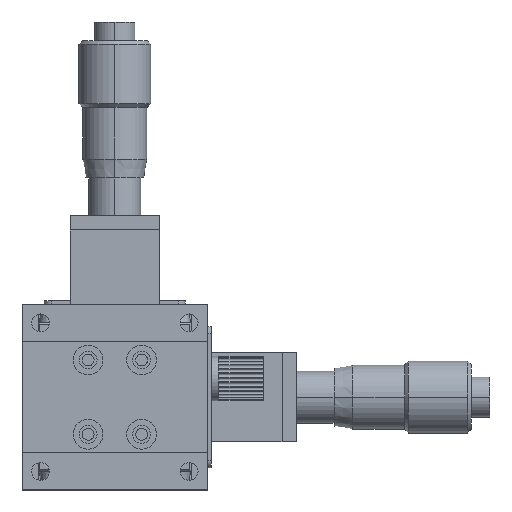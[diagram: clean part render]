
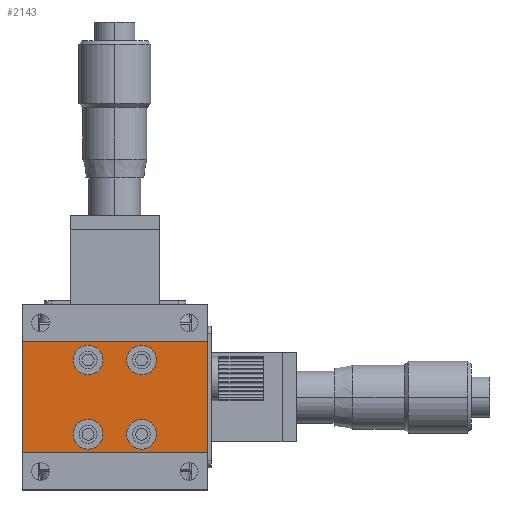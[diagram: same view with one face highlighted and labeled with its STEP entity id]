
A CAD part, front view. The second image highlights one B-rep face of the part: STEP entity #2143.
In plain terms, the highlighted planar face has unit normal (0, -1, 0).
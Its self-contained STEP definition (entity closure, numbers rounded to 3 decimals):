
#23 = CARTESIAN_POINT ( 'NONE',  ( -3.6, 0.2, 5. ) ) ;
#297 = ORIENTED_EDGE ( 'NONE', *, *, #12014, .F. ) ;
#895 = DIRECTION ( 'NONE',  ( -1., 0., 0. ) ) ;
#1050 = CARTESIAN_POINT ( 'NONE',  ( -3.6, 0.2, 5. ) ) ;
#1134 = ORIENTED_EDGE ( 'NONE', *, *, #10113, .F. ) ;
#1317 = VERTEX_POINT ( 'NONE', #13072 ) ;
#1494 = DIRECTION ( 'NONE',  ( 0., 0., -1. ) ) ;
#1701 = ORIENTED_EDGE ( 'NONE', *, *, #3311, .F. ) ;
#1770 = ORIENTED_EDGE ( 'NONE', *, *, #10217, .F. ) ;
#2080 = ORIENTED_EDGE ( 'NONE', *, *, #6168, .T. ) ;
#2143 = ADVANCED_FACE ( 'NONE', ( #3008, #2791, #5303, #4877, #9666 ), #8812, .T. ) ;
#2146 = AXIS2_PLACEMENT_3D ( 'NONE', #11969, #8082, #1494 ) ;
#2193 = CARTESIAN_POINT ( 'NONE',  ( 0., 0.2, 0. ) ) ;
#2210 = CARTESIAN_POINT ( 'NONE',  ( 3.6, 0.2, 5. ) ) ;
#2267 = DIRECTION ( 'NONE',  ( 0., 0., -1. ) ) ;
#2553 = AXIS2_PLACEMENT_3D ( 'NONE', #11245, #15064, #11075 ) ;
#2573 = EDGE_LOOP ( 'NONE', ( #7504, #1134 ) ) ;
#2791 = FACE_BOUND ( 'NONE', #8782, .T. ) ;
#2861 = EDGE_LOOP ( 'NONE', ( #297, #5776 ) ) ;
#2947 = VERTEX_POINT ( 'NONE', #12174 ) ;
#3008 = FACE_BOUND ( 'NONE', #2573, .T. ) ;
#3193 = VERTEX_POINT ( 'NONE', #11358 ) ;
#3311 = EDGE_CURVE ( 'NONE', #17086, #4553, #10611, .T. ) ;
#3483 = VECTOR ( 'NONE', #895, 1000. ) ;
#3622 = LINE ( 'NONE', #5313, #5669 ) ;
#3709 = DIRECTION ( 'NONE',  ( 0., 0., -1. ) ) ;
#3828 = ORIENTED_EDGE ( 'NONE', *, *, #14562, .F. ) ;
#4104 = ORIENTED_EDGE ( 'NONE', *, *, #5173, .F. ) ;
#4553 = VERTEX_POINT ( 'NONE', #6888 ) ;
#4637 = ORIENTED_EDGE ( 'NONE', *, *, #7506, .T. ) ;
#4877 = FACE_BOUND ( 'NONE', #2861, .T. ) ;
#4965 = VERTEX_POINT ( 'NONE', #15394 ) ;
#5136 = VERTEX_POINT ( 'NONE', #6410 ) ;
#5173 = EDGE_CURVE ( 'NONE', #4553, #17086, #6615, .T. ) ;
#5303 = FACE_BOUND ( 'NONE', #9607, .T. ) ;
#5313 = CARTESIAN_POINT ( 'NONE',  ( 12.5, 0.2, 7.5 ) ) ;
#5459 = CIRCLE ( 'NONE', #5501, 2. ) ;
#5501 = AXIS2_PLACEMENT_3D ( 'NONE', #1050, #10307, #3709 ) ;
#5529 = VERTEX_POINT ( 'NONE', #14983 ) ;
#5669 = VECTOR ( 'NONE', #6461, 1000. ) ;
#5745 = DIRECTION ( 'NONE',  ( 1., 0., 0. ) ) ;
#5746 = EDGE_CURVE ( 'NONE', #15667, #13556, #6990, .T. ) ;
#5776 = ORIENTED_EDGE ( 'NONE', *, *, #14142, .F. ) ;
#5779 = CARTESIAN_POINT ( 'NONE',  ( -3.6, 0.2, -5. ) ) ;
#6164 = CARTESIAN_POINT ( 'NONE',  ( 3.6, 0.2, -3. ) ) ;
#6168 = EDGE_CURVE ( 'NONE', #5529, #1317, #13462, .T. ) ;
#6194 = CIRCLE ( 'NONE', #2553, 2. ) ;
#6289 = CARTESIAN_POINT ( 'NONE',  ( 3.6, 0.2, -5. ) ) ;
#6410 = CARTESIAN_POINT ( 'NONE',  ( -3.6, 0.2, 3. ) ) ;
#6461 = DIRECTION ( 'NONE',  ( 0., 0., 1. ) ) ;
#6538 = CIRCLE ( 'NONE', #9314, 2. ) ;
#6615 = CIRCLE ( 'NONE', #11198, 2. ) ;
#6888 = CARTESIAN_POINT ( 'NONE',  ( 3.6, 0.2, -7. ) ) ;
#6989 = AXIS2_PLACEMENT_3D ( 'NONE', #23, #14960, #9303 ) ;
#6990 = LINE ( 'NONE', #12665, #3483 ) ;
#7276 = LINE ( 'NONE', #15575, #11426 ) ;
#7504 = ORIENTED_EDGE ( 'NONE', *, *, #13803, .F. ) ;
#7506 = EDGE_CURVE ( 'NONE', #1317, #15667, #3622, .T. ) ;
#7736 = DIRECTION ( 'NONE',  ( 0., -1., 0. ) ) ;
#8082 = DIRECTION ( 'NONE',  ( 0., -1., 0. ) ) ;
#8270 = AXIS2_PLACEMENT_3D ( 'NONE', #9116, #7736, #9049 ) ;
#8362 = AXIS2_PLACEMENT_3D ( 'NONE', #2193, #12876, #8940 ) ;
#8459 = DIRECTION ( 'NONE',  ( 0., -1., 0. ) ) ;
#8507 = CIRCLE ( 'NONE', #6989, 2. ) ;
#8782 = EDGE_LOOP ( 'NONE', ( #3828, #1770 ) ) ;
#8812 = PLANE ( 'NONE',  #8362 ) ;
#8940 = DIRECTION ( 'NONE',  ( 1., 0., 0. ) ) ;
#9049 = DIRECTION ( 'NONE',  ( 0., 0., -1. ) ) ;
#9116 = CARTESIAN_POINT ( 'NONE',  ( 3.6, 0.2, -5. ) ) ;
#9303 = DIRECTION ( 'NONE',  ( 0., 0., -1. ) ) ;
#9314 = AXIS2_PLACEMENT_3D ( 'NONE', #5779, #8459, #9786 ) ;
#9580 = EDGE_CURVE ( 'NONE', #13556, #5529, #7276, .T. ) ;
#9607 = EDGE_LOOP ( 'NONE', ( #4104, #1701 ) ) ;
#9666 = FACE_OUTER_BOUND ( 'NONE', #13752, .T. ) ;
#9786 = DIRECTION ( 'NONE',  ( 0., 0., -1. ) ) ;
#10063 = AXIS2_PLACEMENT_3D ( 'NONE', #2210, #11435, #2267 ) ;
#10113 = EDGE_CURVE ( 'NONE', #15580, #5136, #8507, .T. ) ;
#10121 = ORIENTED_EDGE ( 'NONE', *, *, #5746, .T. ) ;
#10217 = EDGE_CURVE ( 'NONE', #2947, #4965, #6194, .T. ) ;
#10307 = DIRECTION ( 'NONE',  ( 0., -1., 0. ) ) ;
#10611 = CIRCLE ( 'NONE', #8270, 2. ) ;
#10989 = VERTEX_POINT ( 'NONE', #14792 ) ;
#11034 = CARTESIAN_POINT ( 'NONE',  ( 12.5, 0.2, 7.5 ) ) ;
#11075 = DIRECTION ( 'NONE',  ( 0., 0., -1. ) ) ;
#11198 = AXIS2_PLACEMENT_3D ( 'NONE', #6289, #15516, #16758 ) ;
#11245 = CARTESIAN_POINT ( 'NONE',  ( 3.6, 0.2, 5. ) ) ;
#11358 = CARTESIAN_POINT ( 'NONE',  ( -3.6, 0.2, -3. ) ) ;
#11426 = VECTOR ( 'NONE', #11699, 1000. ) ;
#11435 = DIRECTION ( 'NONE',  ( 0., -1., 0. ) ) ;
#11574 = CIRCLE ( 'NONE', #2146, 2. ) ;
#11699 = DIRECTION ( 'NONE',  ( 0., 0., -1. ) ) ;
#11969 = CARTESIAN_POINT ( 'NONE',  ( -3.6, 0.2, -5. ) ) ;
#11975 = CIRCLE ( 'NONE', #10063, 2. ) ;
#12014 = EDGE_CURVE ( 'NONE', #10989, #3193, #11574, .T. ) ;
#12174 = CARTESIAN_POINT ( 'NONE',  ( 3.6, 0.2, 7. ) ) ;
#12665 = CARTESIAN_POINT ( 'NONE',  ( -12.5, 0.2, 7.5 ) ) ;
#12876 = DIRECTION ( 'NONE',  ( 0., -1., 0. ) ) ;
#13072 = CARTESIAN_POINT ( 'NONE',  ( 12.5, 0.2, -7.5 ) ) ;
#13306 = CARTESIAN_POINT ( 'NONE',  ( -3.6, 0.2, 7. ) ) ;
#13462 = LINE ( 'NONE', #13698, #15084 ) ;
#13556 = VERTEX_POINT ( 'NONE', #16179 ) ;
#13698 = CARTESIAN_POINT ( 'NONE',  ( -12.5, 0.2, -7.5 ) ) ;
#13752 = EDGE_LOOP ( 'NONE', ( #4637, #10121, #16430, #2080 ) ) ;
#13803 = EDGE_CURVE ( 'NONE', #5136, #15580, #5459, .T. ) ;
#14142 = EDGE_CURVE ( 'NONE', #3193, #10989, #6538, .T. ) ;
#14562 = EDGE_CURVE ( 'NONE', #4965, #2947, #11975, .T. ) ;
#14792 = CARTESIAN_POINT ( 'NONE',  ( -3.6, 0.2, -7. ) ) ;
#14960 = DIRECTION ( 'NONE',  ( 0., -1., 0. ) ) ;
#14983 = CARTESIAN_POINT ( 'NONE',  ( -12.5, 0.2, -7.5 ) ) ;
#15064 = DIRECTION ( 'NONE',  ( 0., -1., 0. ) ) ;
#15084 = VECTOR ( 'NONE', #5745, 1000. ) ;
#15394 = CARTESIAN_POINT ( 'NONE',  ( 3.6, 0.2, 3. ) ) ;
#15516 = DIRECTION ( 'NONE',  ( 0., -1., 0. ) ) ;
#15575 = CARTESIAN_POINT ( 'NONE',  ( -12.5, 0.2, 7.5 ) ) ;
#15580 = VERTEX_POINT ( 'NONE', #13306 ) ;
#15667 = VERTEX_POINT ( 'NONE', #11034 ) ;
#16179 = CARTESIAN_POINT ( 'NONE',  ( -12.5, 0.2, 7.5 ) ) ;
#16430 = ORIENTED_EDGE ( 'NONE', *, *, #9580, .T. ) ;
#16758 = DIRECTION ( 'NONE',  ( 0., 0., -1. ) ) ;
#17086 = VERTEX_POINT ( 'NONE', #6164 ) ;
